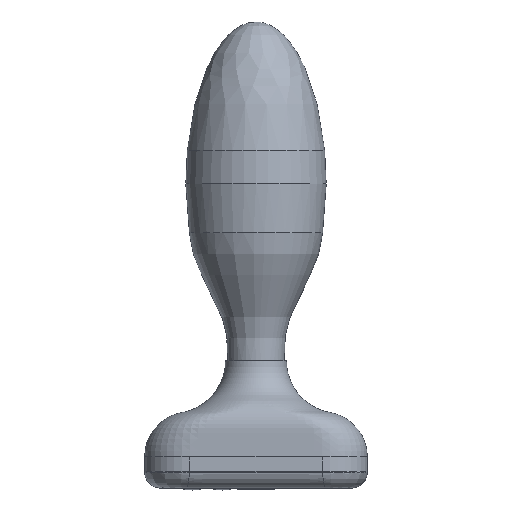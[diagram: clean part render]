
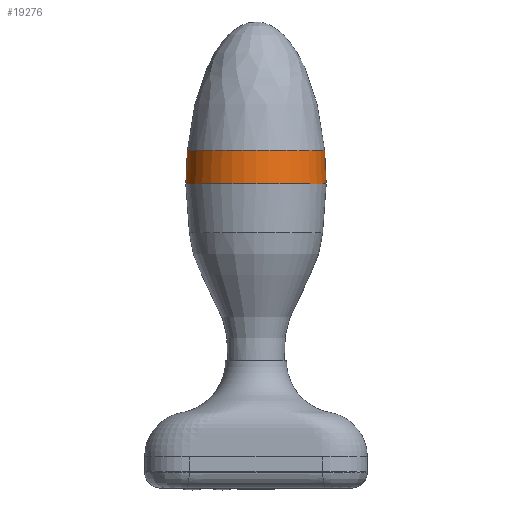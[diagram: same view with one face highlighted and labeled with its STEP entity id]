
A CAD part, top view. The second image highlights one B-rep face of the part: STEP entity #19276.
In plain terms, the highlighted face is a revolution surface.
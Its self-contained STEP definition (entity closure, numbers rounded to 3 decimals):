
#2332 = VERTEX_POINT('',#2333);
#2333 = CARTESIAN_POINT('',(18.669,55.,0.));
#2398 = EDGE_CURVE('',#2332,#2399,#2401,.T.);
#2399 = VERTEX_POINT('',#2400);
#2400 = CARTESIAN_POINT('',(18.257,64.,0.));
#2401 = B_SPLINE_CURVE_WITH_KNOTS('',3,(#2402,#2403,#2404,#2405,#2406,
    #2407,#2408,#2409,#2410,#2411,#2412,#2413,#2414,#2415,#2416,#2417,
    #2418,#2419,#2420,#2421,#2422,#2423,#2424,#2425,#2426,#2427,#2428,
    #2429,#2430,#2431,#2432,#2433,#2434,#2435,#2436,#2437,#2438,#2439,
    #2440,#2441,#2442,#2443,#2444),.UNSPECIFIED.,.F.,.F.,(4,1,1,1,1,1,1,
    1,1,1,1,1,1,1,1,1,1,1,1,1,1,1,1,1,1,1,1,1,1,1,1,1,1,1,1,1,1,1,1,1,4)
  ,(0.,0.225,0.45,0.675,0.9,
    1.125,1.35,1.575,1.8,
    2.025,2.25,2.475,2.7,
    2.925,3.151,3.376,3.601,
    3.826,4.051,4.276,4.502,
    4.727,4.952,5.177,5.403,
    5.628,5.853,6.079,6.304,
    6.53,6.755,6.981,7.206,
    7.432,7.658,7.883,8.109,
    8.335,8.561,8.787,9.013),
  .UNSPECIFIED.);
#2402 = CARTESIAN_POINT('',(18.669,55.,0.));
#2403 = CARTESIAN_POINT('',(18.669,55.075,0.));
#2404 = CARTESIAN_POINT('',(18.669,55.225,0.));
#2405 = CARTESIAN_POINT('',(18.668,55.45,0.));
#2406 = CARTESIAN_POINT('',(18.667,55.675,0.));
#2407 = CARTESIAN_POINT('',(18.665,55.9,0.));
#2408 = CARTESIAN_POINT('',(18.663,56.125,0.));
#2409 = CARTESIAN_POINT('',(18.66,56.35,0.));
#2410 = CARTESIAN_POINT('',(18.657,56.575,0.));
#2411 = CARTESIAN_POINT('',(18.653,56.8,0.));
#2412 = CARTESIAN_POINT('',(18.648,57.025,0.));
#2413 = CARTESIAN_POINT('',(18.644,57.25,0.));
#2414 = CARTESIAN_POINT('',(18.638,57.475,0.));
#2415 = CARTESIAN_POINT('',(18.632,57.7,0.));
#2416 = CARTESIAN_POINT('',(18.626,57.925,0.));
#2417 = CARTESIAN_POINT('',(18.619,58.15,0.));
#2418 = CARTESIAN_POINT('',(18.612,58.375,0.));
#2419 = CARTESIAN_POINT('',(18.604,58.6,0.));
#2420 = CARTESIAN_POINT('',(18.595,58.825,0.));
#2421 = CARTESIAN_POINT('',(18.586,59.05,0.));
#2422 = CARTESIAN_POINT('',(18.577,59.275,0.));
#2423 = CARTESIAN_POINT('',(18.567,59.5,0.));
#2424 = CARTESIAN_POINT('',(18.557,59.725,0.));
#2425 = CARTESIAN_POINT('',(18.546,59.95,0.));
#2426 = CARTESIAN_POINT('',(18.534,60.175,0.));
#2427 = CARTESIAN_POINT('',(18.522,60.4,0.));
#2428 = CARTESIAN_POINT('',(18.509,60.625,0.));
#2429 = CARTESIAN_POINT('',(18.496,60.85,0.));
#2430 = CARTESIAN_POINT('',(18.483,61.075,0.));
#2431 = CARTESIAN_POINT('',(18.469,61.3,0.));
#2432 = CARTESIAN_POINT('',(18.454,61.525,0.));
#2433 = CARTESIAN_POINT('',(18.439,61.75,0.));
#2434 = CARTESIAN_POINT('',(18.423,61.975,0.));
#2435 = CARTESIAN_POINT('',(18.407,62.2,0.));
#2436 = CARTESIAN_POINT('',(18.39,62.425,0.));
#2437 = CARTESIAN_POINT('',(18.373,62.65,0.));
#2438 = CARTESIAN_POINT('',(18.355,62.875,0.));
#2439 = CARTESIAN_POINT('',(18.336,63.1,0.));
#2440 = CARTESIAN_POINT('',(18.318,63.325,0.));
#2441 = CARTESIAN_POINT('',(18.298,63.55,0.));
#2442 = CARTESIAN_POINT('',(18.278,63.775,0.));
#2443 = CARTESIAN_POINT('',(18.264,63.925,0.));
#2444 = CARTESIAN_POINT('',(18.257,64.,0.));
#2515 = VERTEX_POINT('',#2516);
#2516 = CARTESIAN_POINT('',(-18.257,64.,0.));
#2682 = EDGE_CURVE('',#2683,#2515,#2685,.T.);
#2683 = VERTEX_POINT('',#2684);
#2684 = CARTESIAN_POINT('',(-18.669,55.,0.));
#2685 = B_SPLINE_CURVE_WITH_KNOTS('',5,(#2686,#2687,#2688,#2689,#2690,
    #2691,#2692,#2693,#2694,#2695),.UNSPECIFIED.,.F.,.F.,(6,4,6),(0.,
    0.5,1.),.UNSPECIFIED.);
#2686 = CARTESIAN_POINT('',(-18.669,55.,0.));
#2687 = CARTESIAN_POINT('',(-18.669,55.901,0.));
#2688 = CARTESIAN_POINT('',(-18.659,56.803,0.));
#2689 = CARTESIAN_POINT('',(-18.638,57.704,0.));
#2690 = CARTESIAN_POINT('',(-18.608,58.604,0.));
#2691 = CARTESIAN_POINT('',(-18.526,60.405,0.));
#2692 = CARTESIAN_POINT('',(-18.474,61.305,0.));
#2693 = CARTESIAN_POINT('',(-18.413,62.204,0.));
#2694 = CARTESIAN_POINT('',(-18.34,63.103,0.));
#2695 = CARTESIAN_POINT('',(-18.257,64.,0.));
#19202 = EDGE_CURVE('',#2683,#2332,#19203,.T.);
#19203 = CIRCLE('',#19204,18.669);
#19204 = AXIS2_PLACEMENT_3D('',#19205,#19206,#19207);
#19205 = CARTESIAN_POINT('',(0.,55.,0.));
#19206 = DIRECTION('',(-0.,1.,0.));
#19207 = DIRECTION('',(1.,0.,0.));
#19276 = ADVANCED_FACE('',(#19277),#19289,.T.);
#19277 = FACE_BOUND('',#19278,.T.);
#19278 = EDGE_LOOP('',(#19279,#19280,#19281,#19288));
#19279 = ORIENTED_EDGE('',*,*,#19202,.T.);
#19280 = ORIENTED_EDGE('',*,*,#2398,.T.);
#19281 = ORIENTED_EDGE('',*,*,#19282,.F.);
#19282 = EDGE_CURVE('',#2515,#2399,#19283,.T.);
#19283 = CIRCLE('',#19284,18.257);
#19284 = AXIS2_PLACEMENT_3D('',#19285,#19286,#19287);
#19285 = CARTESIAN_POINT('',(0.,64.,0.));
#19286 = DIRECTION('',(-0.,1.,0.));
#19287 = DIRECTION('',(1.,0.,0.));
#19288 = ORIENTED_EDGE('',*,*,#2682,.F.);
#19289 = SURFACE_OF_REVOLUTION('',#19290,#19334);
#19290 = B_SPLINE_CURVE_WITH_KNOTS('',3,(#19291,#19292,#19293,#19294,
    #19295,#19296,#19297,#19298,#19299,#19300,#19301,#19302,#19303,
    #19304,#19305,#19306,#19307,#19308,#19309,#19310,#19311,#19312,
    #19313,#19314,#19315,#19316,#19317,#19318,#19319,#19320,#19321,
    #19322,#19323,#19324,#19325,#19326,#19327,#19328,#19329,#19330,
    #19331,#19332,#19333),.UNSPECIFIED.,.F.,.F.,(4,1,1,1,1,1,1,1,1,1,1,1
    ,1,1,1,1,1,1,1,1,1,1,1,1,1,1,1,1,1,1,1,1,1,1,1,1,1,1,1,1,4),(0.,
    0.225,0.45,0.675,0.9,
    1.125,1.35,1.575,1.8,
    2.025,2.25,2.475,2.7,
    2.925,3.151,3.376,3.601,
    3.826,4.051,4.276,4.502,
    4.727,4.952,5.177,5.403,
    5.628,5.853,6.079,6.304,
    6.53,6.755,6.981,7.206,
    7.432,7.658,7.883,8.109,
    8.335,8.561,8.787,9.013),
  .UNSPECIFIED.);
#19291 = CARTESIAN_POINT('',(18.669,55.,0.));
#19292 = CARTESIAN_POINT('',(18.669,55.075,0.));
#19293 = CARTESIAN_POINT('',(18.669,55.225,0.));
#19294 = CARTESIAN_POINT('',(18.668,55.45,0.));
#19295 = CARTESIAN_POINT('',(18.667,55.675,0.));
#19296 = CARTESIAN_POINT('',(18.665,55.9,0.));
#19297 = CARTESIAN_POINT('',(18.663,56.125,0.));
#19298 = CARTESIAN_POINT('',(18.66,56.35,0.));
#19299 = CARTESIAN_POINT('',(18.657,56.575,0.));
#19300 = CARTESIAN_POINT('',(18.653,56.8,0.));
#19301 = CARTESIAN_POINT('',(18.648,57.025,0.));
#19302 = CARTESIAN_POINT('',(18.644,57.25,0.));
#19303 = CARTESIAN_POINT('',(18.638,57.475,0.));
#19304 = CARTESIAN_POINT('',(18.632,57.7,0.));
#19305 = CARTESIAN_POINT('',(18.626,57.925,0.));
#19306 = CARTESIAN_POINT('',(18.619,58.15,0.));
#19307 = CARTESIAN_POINT('',(18.612,58.375,0.));
#19308 = CARTESIAN_POINT('',(18.604,58.6,0.));
#19309 = CARTESIAN_POINT('',(18.595,58.825,0.));
#19310 = CARTESIAN_POINT('',(18.586,59.05,0.));
#19311 = CARTESIAN_POINT('',(18.577,59.275,0.));
#19312 = CARTESIAN_POINT('',(18.567,59.5,0.));
#19313 = CARTESIAN_POINT('',(18.557,59.725,0.));
#19314 = CARTESIAN_POINT('',(18.546,59.95,0.));
#19315 = CARTESIAN_POINT('',(18.534,60.175,0.));
#19316 = CARTESIAN_POINT('',(18.522,60.4,0.));
#19317 = CARTESIAN_POINT('',(18.509,60.625,0.));
#19318 = CARTESIAN_POINT('',(18.496,60.85,0.));
#19319 = CARTESIAN_POINT('',(18.483,61.075,0.));
#19320 = CARTESIAN_POINT('',(18.469,61.3,0.));
#19321 = CARTESIAN_POINT('',(18.454,61.525,0.));
#19322 = CARTESIAN_POINT('',(18.439,61.75,0.));
#19323 = CARTESIAN_POINT('',(18.423,61.975,0.));
#19324 = CARTESIAN_POINT('',(18.407,62.2,0.));
#19325 = CARTESIAN_POINT('',(18.39,62.425,0.));
#19326 = CARTESIAN_POINT('',(18.373,62.65,0.));
#19327 = CARTESIAN_POINT('',(18.355,62.875,0.));
#19328 = CARTESIAN_POINT('',(18.336,63.1,0.));
#19329 = CARTESIAN_POINT('',(18.318,63.325,0.));
#19330 = CARTESIAN_POINT('',(18.298,63.55,0.));
#19331 = CARTESIAN_POINT('',(18.278,63.775,0.));
#19332 = CARTESIAN_POINT('',(18.264,63.925,0.));
#19333 = CARTESIAN_POINT('',(18.257,64.,0.));
#19334 = AXIS1_PLACEMENT('',#19335,#19336);
#19335 = CARTESIAN_POINT('',(0.,0.,0.));
#19336 = DIRECTION('',(0.,1.,0.));
